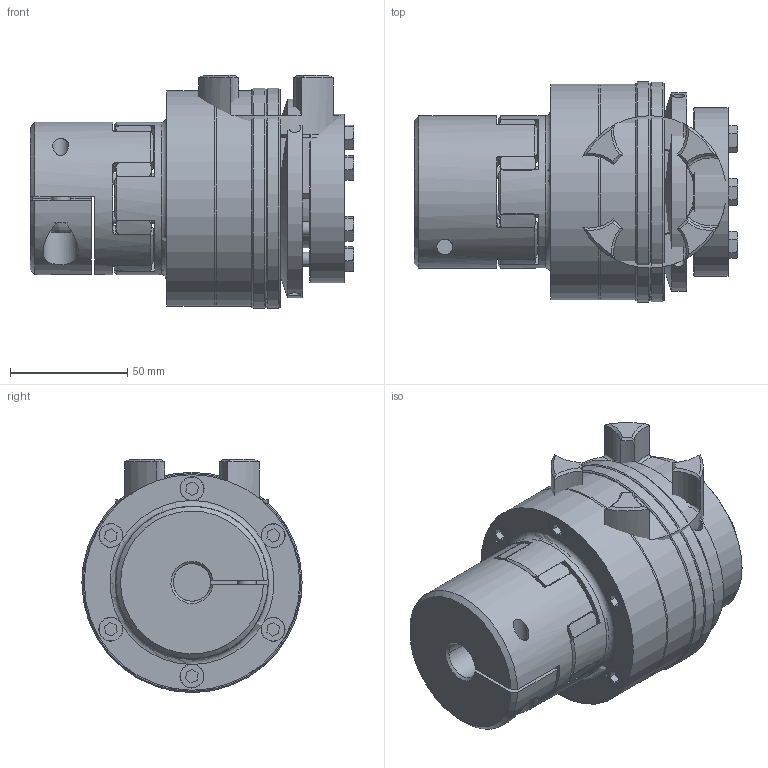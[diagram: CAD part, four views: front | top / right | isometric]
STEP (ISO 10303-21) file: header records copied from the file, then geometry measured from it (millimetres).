
FILE_DESCRIPTION( ( 'Unknown' ), '1' );
FILE_NAME( 'C:/Dokumente und Einstellungen/Sven/Desktop/hp kbk/E-KA/KBK EKA-28-144.stp', 'Unknown', ( 'Unknown' ), ( 'Unknown' ), 'XStep 1.0', 'Unknown', ' ' );
FILE_SCHEMA( ( 'automotive_design' ) );
Length unit declared in the file: millimetre
Products named in the file (18): Assem1; Assem2; Assem3; ball_bearing_-_6008_0_01_1; ball_bearing_-_6008_0_02_1; ball_bearing_-_6008_0_03_1; Zylinderschraube DIN 912_1; Stellring 80_0; Druckring 80_0; Flansch 80_0; a_40_0; Elastomerflansch 28_0; Zahnkranz EK28_Standard_0; KBK L-A-80 Grundkörper_0; Druckring L-A-80_0; din_en_24017_m6x25_0; KBE 2 - 28_Nabe; schraube_iso_7380-m8x25-12_9_0
Bounding box: 138.1 x 94 x 99.5 mm (x, y, z)
Volume: 1075373.8 mm3; surface area: 345971.6 mm2
Topology: 44 solids, 44 shells, 1057 faces, 2424 edges, 1556 vertices
Faces by surface type: plane 395, cylinder 334, cone 272, torus 54, bspline 2
Full cylindrical faces by diameter (mm): 2.5 x4, 3.242 x6, 4.917 x24, 5 x24, 5.2 x6, 6 x15, 6.2 x12, 6.6 x12, 6.8 x2, 8 x2, 8.8 x7, 9 x2, 10 x8, 10.2 x12, 16 x2, 19 x2, 30 x6, 37.5 x2, 40 x7, 42.29 x2, 49.2 x6, 59.1 x6, 61 x2, 62 x4, 65 x4, 68 x7, 70 x2, 72 x2, 85 x2, 87 x2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
Entity records: 12519 total; most frequent: CARTESIAN_POINT 2984, DIRECTION 2047, ORIENTED_EDGE 1606, AXIS2_PLACEMENT_3D 942, EDGE_CURVE 803, EDGE_LOOP 655, VERTEX_POINT 583, FACE_OUTER_BOUND 524
